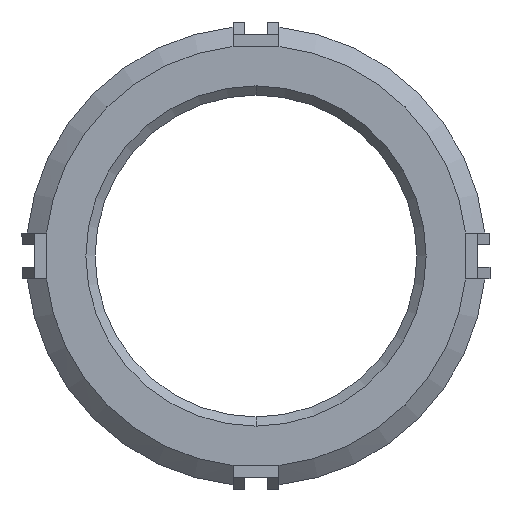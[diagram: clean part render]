
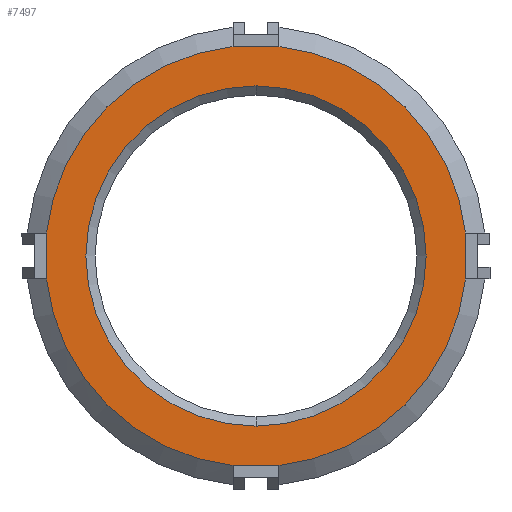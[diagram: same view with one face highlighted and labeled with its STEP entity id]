
A CAD part, front view. The second image highlights one B-rep face of the part: STEP entity #7497.
In plain terms, the highlighted planar face has unit normal (0, -1, 0).
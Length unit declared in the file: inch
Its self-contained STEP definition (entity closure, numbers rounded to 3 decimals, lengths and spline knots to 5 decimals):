
#4 = CIRCLE ( 'NONE', #2839, 0.57296 ) ;
#53 = CARTESIAN_POINT ( 'NONE',  ( 0.56954, 0., 0.0625 ) ) ;
#139 = EDGE_CURVE ( 'NONE', #3314, #4810, #4, .T. ) ;
#228 = EDGE_CURVE ( 'NONE', #7706, #4810, #3442, .T. ) ;
#247 = ORIENTED_EDGE ( 'NONE', *, *, #2291, .T. ) ;
#262 = DIRECTION ( 'NONE',  ( 0., 1., 0. ) ) ;
#305 = CARTESIAN_POINT ( 'NONE',  ( 0., 0., 0. ) ) ;
#552 = CIRCLE ( 'NONE', #1841, 0.57296 ) ;
#675 = DIRECTION ( 'NONE',  ( 0., 0., -1. ) ) ;
#704 = DIRECTION ( 'NONE',  ( 0., -1., 0. ) ) ;
#837 = DIRECTION ( 'NONE',  ( 0., 0., -1. ) ) ;
#1083 = EDGE_LOOP ( 'NONE', ( #2642, #5549, #5925, #4586, #247, #2776, #6308, #3858 ) ) ;
#1110 = VECTOR ( 'NONE', #2397, 39.37008 ) ;
#1134 = VERTEX_POINT ( 'NONE', #1287 ) ;
#1287 = CARTESIAN_POINT ( 'NONE',  ( 0., 0., -0.4625 ) ) ;
#1441 = CARTESIAN_POINT ( 'NONE',  ( 0.56954, 0., -0.0625 ) ) ;
#1443 = AXIS2_PLACEMENT_3D ( 'NONE', #4371, #704, #7274 ) ;
#1444 = AXIS2_PLACEMENT_3D ( 'NONE', #3229, #2148, #5813 ) ;
#1509 = DIRECTION ( 'NONE',  ( 0., 0., 1. ) ) ;
#1531 = DIRECTION ( 'NONE',  ( 0., -1., 0. ) ) ;
#1593 = CARTESIAN_POINT ( 'NONE',  ( -0.0625, 0., -0.56954 ) ) ;
#1709 = CIRCLE ( 'NONE', #1443, 0.57296 ) ;
#1725 = EDGE_LOOP ( 'NONE', ( #3611, #3244 ) ) ;
#1784 = EDGE_CURVE ( 'NONE', #4555, #1134, #2078, .T. ) ;
#1798 = DIRECTION ( 'NONE',  ( 0., 0., 1. ) ) ;
#1841 = AXIS2_PLACEMENT_3D ( 'NONE', #6186, #3772, #675 ) ;
#2078 = CIRCLE ( 'NONE', #1444, 0.4625 ) ;
#2096 = CIRCLE ( 'NONE', #7104, 0.57296 ) ;
#2148 = DIRECTION ( 'NONE',  ( 0., 1., 0. ) ) ;
#2162 = CARTESIAN_POINT ( 'NONE',  ( 0.56954, 0., -0.0625 ) ) ;
#2244 = DIRECTION ( 'NONE',  ( -1., 0., 0. ) ) ;
#2291 = EDGE_CURVE ( 'NONE', #7706, #7043, #552, .T. ) ;
#2397 = DIRECTION ( 'NONE',  ( 0., 0., 1. ) ) ;
#2469 = LINE ( 'NONE', #4937, #1110 ) ;
#2511 = CARTESIAN_POINT ( 'NONE',  ( 0.0625, 0., -0.56954 ) ) ;
#2618 = CARTESIAN_POINT ( 'NONE',  ( -0.0625, 0., -0.56954 ) ) ;
#2642 = ORIENTED_EDGE ( 'NONE', *, *, #3240, .T. ) ;
#2661 = EDGE_CURVE ( 'NONE', #1134, #4555, #3370, .T. ) ;
#2776 = ORIENTED_EDGE ( 'NONE', *, *, #7159, .F. ) ;
#2839 = AXIS2_PLACEMENT_3D ( 'NONE', #2929, #5347, #5223 ) ;
#2892 = CARTESIAN_POINT ( 'NONE',  ( 0.0625, 0., 0.56954 ) ) ;
#2929 = CARTESIAN_POINT ( 'NONE',  ( 0., 0., 0. ) ) ;
#3227 = DIRECTION ( 'NONE',  ( 1., 0., 0. ) ) ;
#3229 = CARTESIAN_POINT ( 'NONE',  ( 0., 0., 0. ) ) ;
#3240 = EDGE_CURVE ( 'NONE', #3686, #6716, #2096, .T. ) ;
#3244 = ORIENTED_EDGE ( 'NONE', *, *, #1784, .T. ) ;
#3314 = VERTEX_POINT ( 'NONE', #7839 ) ;
#3317 = PLANE ( 'NONE',  #7033 ) ;
#3370 = CIRCLE ( 'NONE', #3634, 0.4625 ) ;
#3427 = DIRECTION ( 'NONE',  ( 0., 0., -1. ) ) ;
#3442 = LINE ( 'NONE', #1593, #7087 ) ;
#3611 = ORIENTED_EDGE ( 'NONE', *, *, #2661, .T. ) ;
#3634 = AXIS2_PLACEMENT_3D ( 'NONE', #4342, #4978, #1798 ) ;
#3678 = VECTOR ( 'NONE', #837, 39.37008 ) ;
#3686 = VERTEX_POINT ( 'NONE', #7131 ) ;
#3772 = DIRECTION ( 'NONE',  ( 0., -1., 0. ) ) ;
#3858 = ORIENTED_EDGE ( 'NONE', *, *, #7896, .F. ) ;
#4012 = FACE_BOUND ( 'NONE', #1725, .T. ) ;
#4081 = CARTESIAN_POINT ( 'NONE',  ( 0., 0., 0. ) ) ;
#4172 = EDGE_CURVE ( 'NONE', #6666, #5161, #1709, .T. ) ;
#4342 = CARTESIAN_POINT ( 'NONE',  ( 0., 0., 0. ) ) ;
#4371 = CARTESIAN_POINT ( 'NONE',  ( 0., 0., 0. ) ) ;
#4555 = VERTEX_POINT ( 'NONE', #6770 ) ;
#4586 = ORIENTED_EDGE ( 'NONE', *, *, #228, .F. ) ;
#4623 = FACE_OUTER_BOUND ( 'NONE', #1083, .T. ) ;
#4810 = VERTEX_POINT ( 'NONE', #2618 ) ;
#4937 = CARTESIAN_POINT ( 'NONE',  ( -0.56954, 0., 0.0625 ) ) ;
#4978 = DIRECTION ( 'NONE',  ( 0., 1., 0. ) ) ;
#5095 = LINE ( 'NONE', #7060, #5727 ) ;
#5161 = VERTEX_POINT ( 'NONE', #2892 ) ;
#5223 = DIRECTION ( 'NONE',  ( 0., 0., -1. ) ) ;
#5347 = DIRECTION ( 'NONE',  ( 0., -1., 0. ) ) ;
#5549 = ORIENTED_EDGE ( 'NONE', *, *, #7747, .F. ) ;
#5727 = VECTOR ( 'NONE', #3227, 39.37008 ) ;
#5813 = DIRECTION ( 'NONE',  ( 0., 0., 1. ) ) ;
#5925 = ORIENTED_EDGE ( 'NONE', *, *, #139, .T. ) ;
#6186 = CARTESIAN_POINT ( 'NONE',  ( 0., 0., 0. ) ) ;
#6308 = ORIENTED_EDGE ( 'NONE', *, *, #4172, .T. ) ;
#6666 = VERTEX_POINT ( 'NONE', #53 ) ;
#6716 = VERTEX_POINT ( 'NONE', #7626 ) ;
#6770 = CARTESIAN_POINT ( 'NONE',  ( 0., 0., 0.4625 ) ) ;
#6955 = LINE ( 'NONE', #1441, #3678 ) ;
#7033 = AXIS2_PLACEMENT_3D ( 'NONE', #305, #262, #1509 ) ;
#7043 = VERTEX_POINT ( 'NONE', #2162 ) ;
#7060 = CARTESIAN_POINT ( 'NONE',  ( 0.0625, 0., 0.56954 ) ) ;
#7087 = VECTOR ( 'NONE', #2244, 39.37008 ) ;
#7104 = AXIS2_PLACEMENT_3D ( 'NONE', #4081, #1531, #3427 ) ;
#7131 = CARTESIAN_POINT ( 'NONE',  ( -0.0625, 0., 0.56954 ) ) ;
#7159 = EDGE_CURVE ( 'NONE', #6666, #7043, #6955, .T. ) ;
#7274 = DIRECTION ( 'NONE',  ( 0., 0., -1. ) ) ;
#7497 = ADVANCED_FACE ( 'NONE', ( #4012, #4623 ), #3317, .F. ) ;
#7626 = CARTESIAN_POINT ( 'NONE',  ( -0.56954, 0., 0.0625 ) ) ;
#7706 = VERTEX_POINT ( 'NONE', #2511 ) ;
#7747 = EDGE_CURVE ( 'NONE', #3314, #6716, #2469, .T. ) ;
#7839 = CARTESIAN_POINT ( 'NONE',  ( -0.56954, 0., -0.0625 ) ) ;
#7896 = EDGE_CURVE ( 'NONE', #3686, #5161, #5095, .T. ) ;
